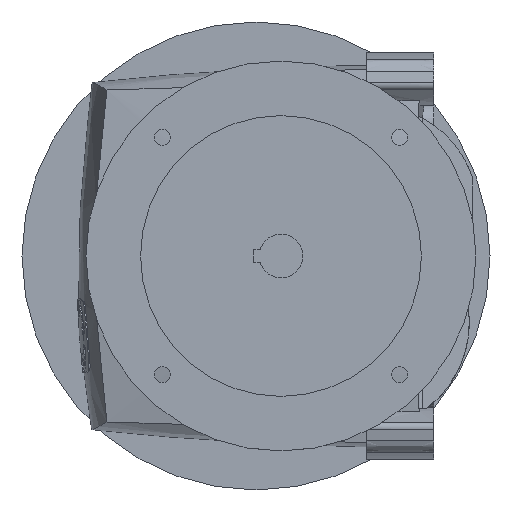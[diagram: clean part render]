
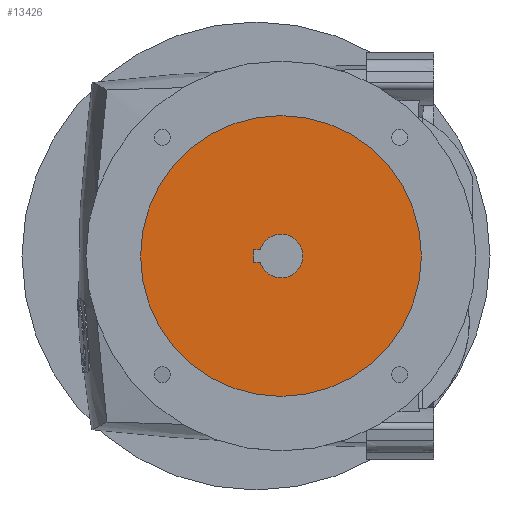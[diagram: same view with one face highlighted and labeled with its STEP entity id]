
A CAD part, left-side view. The second image highlights one B-rep face of the part: STEP entity #13426.
In plain terms, the highlighted planar face has unit normal (-1, 0, 0).
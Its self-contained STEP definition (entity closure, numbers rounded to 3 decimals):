
#4692=CARTESIAN_POINT('',(-164.,124.,0.));
#4693=DIRECTION('',(-1.,0.,0.));
#4694=DIRECTION('',(0.,-1.,0.));
#4695=AXIS2_PLACEMENT_3D('',#4692,#4693,#4694);
#4697=CARTESIAN_POINT('',(-164.,124.,0.));
#4698=DIRECTION('',(-1.,0.,0.));
#4699=DIRECTION('',(0.,1.,0.));
#4700=AXIS2_PLACEMENT_3D('',#4697,#4698,#4699);
#4702=CARTESIAN_POINT('',(-164.,124.,0.));
#4703=DIRECTION('',(-1.,0.,0.));
#4704=DIRECTION('',(0.,0.958,-0.286));
#4705=AXIS2_PLACEMENT_3D('',#4702,#4703,#4704);
#4707=DIRECTION('',(0.,1.,0.));
#4708=VECTOR('',#4707,3.884);
#4709=CARTESIAN_POINT('',(-164.,137.416,4.));
#4710=LINE('',#4709,#4708);
#4711=DIRECTION('',(0.,0.,-1.));
#4712=VECTOR('',#4711,8.);
#4713=CARTESIAN_POINT('',(-164.,141.3,4.));
#4714=LINE('',#4713,#4712);
#4715=DIRECTION('',(0.,-1.,0.));
#4716=VECTOR('',#4715,3.884);
#4717=CARTESIAN_POINT('',(-164.,141.3,-4.));
#4718=LINE('',#4717,#4716);
#8023=CARTESIAN_POINT('',(-164.,34.,0.));
#8024=CARTESIAN_POINT('',(-164.,214.,0.));
#8025=VERTEX_POINT('',#8023);
#8026=VERTEX_POINT('',#8024);
#8071=CARTESIAN_POINT('',(-164.,137.416,-4.));
#8072=CARTESIAN_POINT('',(-164.,137.416,4.));
#8073=VERTEX_POINT('',#8071);
#8074=VERTEX_POINT('',#8072);
#8075=CARTESIAN_POINT('',(-164.,141.3,4.));
#8076=VERTEX_POINT('',#8075);
#8077=CARTESIAN_POINT('',(-164.,141.3,-4.));
#8078=VERTEX_POINT('',#8077);
#13407=CARTESIAN_POINT('',(-164.,0.,0.));
#13408=DIRECTION('',(-1.,0.,0.));
#13409=DIRECTION('',(0.,-1.,0.));
#13410=AXIS2_PLACEMENT_3D('',#13407,#13408,#13409);
#13411=PLANE('',#13410);
#13412=ORIENTED_EDGE('',*,*,#13387,.F.);
#13413=ORIENTED_EDGE('',*,*,#13401,.F.);
#13414=EDGE_LOOP('',(#13412,#13413));
#13415=FACE_OUTER_BOUND('',#13414,.F.);
#13417=ORIENTED_EDGE('',*,*,#13416,.T.);
#13419=ORIENTED_EDGE('',*,*,#13418,.T.);
#13421=ORIENTED_EDGE('',*,*,#13420,.T.);
#13423=ORIENTED_EDGE('',*,*,#13422,.T.);
#13424=EDGE_LOOP('',(#13417,#13419,#13421,#13423));
#13425=FACE_BOUND('',#13424,.F.);
#13426=ADVANCED_FACE('',(#13415,#13425),#13411,.T.);
#4696=CIRCLE('',#4695,90.);
#4701=CIRCLE('',#4700,90.);
#4706=CIRCLE('',#4705,14.);
#13387=EDGE_CURVE('',#8025,#8026,#4696,.T.);
#13401=EDGE_CURVE('',#8026,#8025,#4701,.T.);
#13416=EDGE_CURVE('',#8073,#8074,#4706,.T.);
#13418=EDGE_CURVE('',#8074,#8076,#4710,.T.);
#13420=EDGE_CURVE('',#8076,#8078,#4714,.T.);
#13422=EDGE_CURVE('',#8078,#8073,#4718,.T.);
